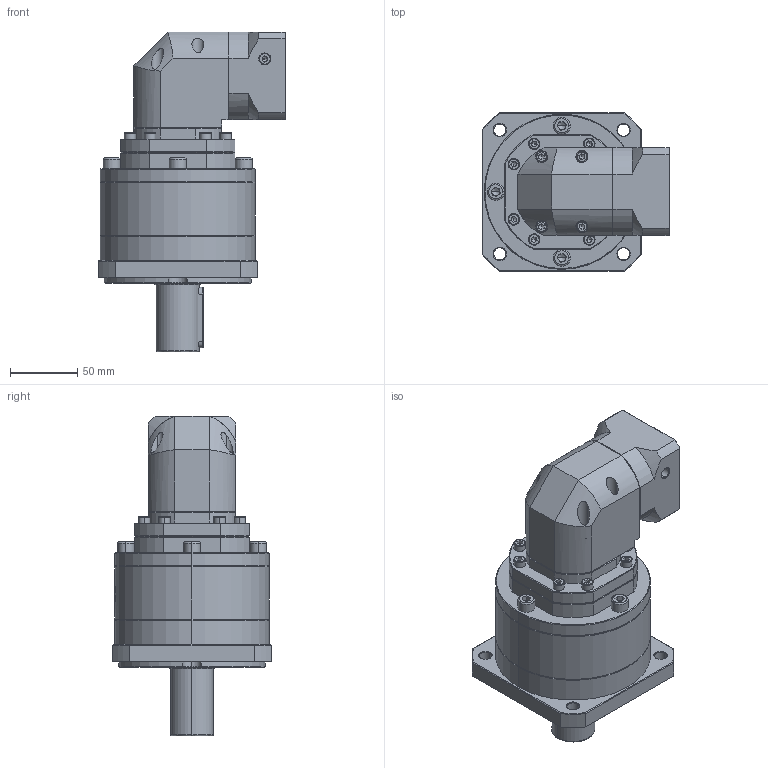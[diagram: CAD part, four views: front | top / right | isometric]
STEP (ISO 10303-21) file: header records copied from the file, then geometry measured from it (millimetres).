
FILE_DESCRIPTION (( 'STEP AP214' ), '1' );
FILE_NAME ('ZFR120A-D32-L3-P2-14-60-75-M5.step', '2023-08-27T09:49:58', ( '' ), ( '' ), 'SwSTEP 2.0', 'SolidWorks 2016', '' );
FILE_SCHEMA (( 'AUTOMOTIVE_DESIGN' ));
Length unit declared in the file: millimetre
Products named in the file (1): ZFR120A-D32-L3-P2-14-60-75-M5
Bounding box: 139.2 x 118 x 237.5 mm (x, y, z)
Volume: 1497393.6 mm3; surface area: 141896.3 mm2
Topology: 6 solids, 6 shells, 2435 faces, 6488 edges, 4169 vertices
Faces by surface type: plane 1172, cylinder 462, bspline 435, cone 346, torus 20
Entity records: 129691 total; most frequent: CARTESIAN_POINT 47626, ORIENTED_EDGE 12868, DIRECTION 9671, EDGE_CURVE 6434, VERTEX_POINT 4169, VECTOR 3419, LINE 3419, AXIS2_PLACEMENT_3D 3126
